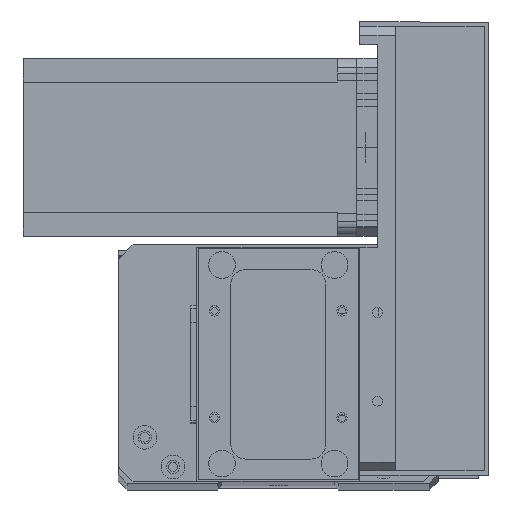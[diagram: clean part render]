
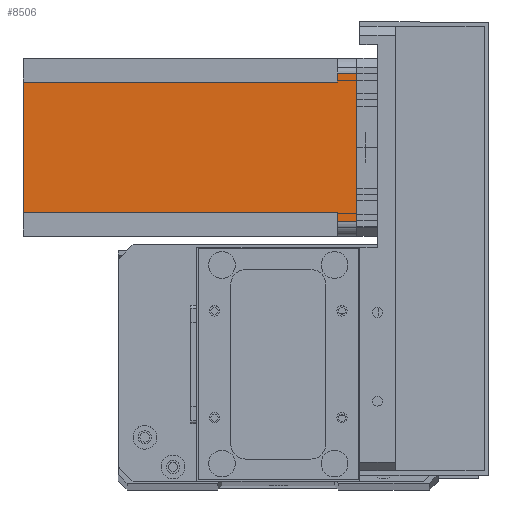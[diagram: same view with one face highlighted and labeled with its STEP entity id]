
A CAD part, top view. The second image highlights one B-rep face of the part: STEP entity #8506.
In plain terms, the highlighted planar face has unit normal (0, 0, 1) as drawn and (0, 1, 0) by its records, which use the part's own axes.
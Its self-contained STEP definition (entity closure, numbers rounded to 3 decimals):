
#84 = LINE ( 'NONE', #27146, #24760 ) ;
#294 = CARTESIAN_POINT ( 'NONE',  ( 52., 60., -6.5 ) ) ;
#731 = DIRECTION ( 'NONE',  ( 1., 0., 0. ) ) ;
#1288 = VERTEX_POINT ( 'NONE', #12063 ) ;
#1343 = DIRECTION ( 'NONE',  ( 0., 0., -1. ) ) ;
#1613 = FACE_OUTER_BOUND ( 'NONE', #13315, .T. ) ;
#1823 = EDGE_CURVE ( 'NONE', #18535, #20419, #18484, .T. ) ;
#1865 = CARTESIAN_POINT ( 'NONE',  ( 55., 60., 0. ) ) ;
#3024 = EDGE_CURVE ( 'NONE', #21336, #24318, #30423, .T. ) ;
#3337 = CARTESIAN_POINT ( 'NONE',  ( 0., 60., -112.5 ) ) ;
#3482 = PLANE ( 'NONE',  #22161 ) ;
#4639 = EDGE_CURVE ( 'NONE', #20419, #7372, #20927, .T. ) ;
#5242 = CARTESIAN_POINT ( 'NONE',  ( 5., 60., -6.5 ) ) ;
#6673 = DIRECTION ( 'NONE',  ( 0., 0., -1. ) ) ;
#7040 = ORIENTED_EDGE ( 'NONE', *, *, #3024, .T. ) ;
#7372 = VERTEX_POINT ( 'NONE', #22331 ) ;
#7469 = EDGE_CURVE ( 'NONE', #18535, #24318, #8454, .T. ) ;
#7752 = EDGE_CURVE ( 'NONE', #18212, #1288, #24846, .T. ) ;
#8266 = ORIENTED_EDGE ( 'NONE', *, *, #7469, .F. ) ;
#8325 = DIRECTION ( 'NONE',  ( 0., 0., 1. ) ) ;
#8454 = LINE ( 'NONE', #13236, #25988 ) ;
#8506 = ADVANCED_FACE ( 'NONE', ( #1613 ), #3482, .T. ) ;
#8781 = CARTESIAN_POINT ( 'NONE',  ( 52., 60., -112.5 ) ) ;
#10259 = EDGE_CURVE ( 'NONE', #11857, #7372, #11262, .T. ) ;
#11262 = LINE ( 'NONE', #28097, #23207 ) ;
#11669 = ORIENTED_EDGE ( 'NONE', *, *, #7752, .F. ) ;
#11857 = VERTEX_POINT ( 'NONE', #1865 ) ;
#12063 = CARTESIAN_POINT ( 'NONE',  ( 55., 60., -6.5 ) ) ;
#12068 = VECTOR ( 'NONE', #20038, 1000. ) ;
#13071 = EDGE_CURVE ( 'NONE', #11857, #1288, #29144, .T. ) ;
#13236 = CARTESIAN_POINT ( 'NONE',  ( 8., 60., -112.5 ) ) ;
#13315 = EDGE_LOOP ( 'NONE', ( #22135, #24376, #11669, #28505, #7040, #8266, #28937, #24654 ) ) ;
#13724 = CARTESIAN_POINT ( 'NONE',  ( 5., 60., -112.5 ) ) ;
#16053 = DIRECTION ( 'NONE',  ( -1., 0., 0. ) ) ;
#16098 = DIRECTION ( 'NONE',  ( 0., 0., 1. ) ) ;
#16902 = CARTESIAN_POINT ( 'NONE',  ( 8., 60., -6.5 ) ) ;
#18212 = VERTEX_POINT ( 'NONE', #294 ) ;
#18484 = LINE ( 'NONE', #16902, #29756 ) ;
#18535 = VERTEX_POINT ( 'NONE', #20612 ) ;
#19013 = CARTESIAN_POINT ( 'NONE',  ( 52., 60., -6.5 ) ) ;
#19297 = DIRECTION ( 'NONE',  ( -1., 0., 0. ) ) ;
#20038 = DIRECTION ( 'NONE',  ( -1., 0., 0. ) ) ;
#20419 = VERTEX_POINT ( 'NONE', #5242 ) ;
#20612 = CARTESIAN_POINT ( 'NONE',  ( 8., 60., -6.5 ) ) ;
#20927 = LINE ( 'NONE', #13724, #26566 ) ;
#20958 = CARTESIAN_POINT ( 'NONE',  ( 55., 60., -112.5 ) ) ;
#21336 = VERTEX_POINT ( 'NONE', #8781 ) ;
#21768 = EDGE_CURVE ( 'NONE', #21336, #18212, #84, .T. ) ;
#22135 = ORIENTED_EDGE ( 'NONE', *, *, #10259, .F. ) ;
#22161 = AXIS2_PLACEMENT_3D ( 'NONE', #29734, #22601, #8325 ) ;
#22331 = CARTESIAN_POINT ( 'NONE',  ( 5., 60., 0. ) ) ;
#22402 = DIRECTION ( 'NONE',  ( 0., 0., 1. ) ) ;
#22601 = DIRECTION ( 'NONE',  ( 0., 1., 0. ) ) ;
#22772 = VECTOR ( 'NONE', #6673, 1000. ) ;
#23207 = VECTOR ( 'NONE', #16053, 1000. ) ;
#24318 = VERTEX_POINT ( 'NONE', #30813 ) ;
#24376 = ORIENTED_EDGE ( 'NONE', *, *, #13071, .T. ) ;
#24654 = ORIENTED_EDGE ( 'NONE', *, *, #4639, .T. ) ;
#24760 = VECTOR ( 'NONE', #22402, 1000. ) ;
#24846 = LINE ( 'NONE', #19013, #30466 ) ;
#25988 = VECTOR ( 'NONE', #1343, 1000. ) ;
#26566 = VECTOR ( 'NONE', #16098, 1000. ) ;
#27146 = CARTESIAN_POINT ( 'NONE',  ( 52., 60., -112.5 ) ) ;
#28097 = CARTESIAN_POINT ( 'NONE',  ( 0., 60., 0. ) ) ;
#28505 = ORIENTED_EDGE ( 'NONE', *, *, #21768, .F. ) ;
#28937 = ORIENTED_EDGE ( 'NONE', *, *, #1823, .T. ) ;
#29144 = LINE ( 'NONE', #20958, #22772 ) ;
#29734 = CARTESIAN_POINT ( 'NONE',  ( 0., 60., -112.5 ) ) ;
#29756 = VECTOR ( 'NONE', #19297, 1000. ) ;
#30423 = LINE ( 'NONE', #3337, #12068 ) ;
#30466 = VECTOR ( 'NONE', #731, 1000. ) ;
#30813 = CARTESIAN_POINT ( 'NONE',  ( 8., 60., -112.5 ) ) ;
